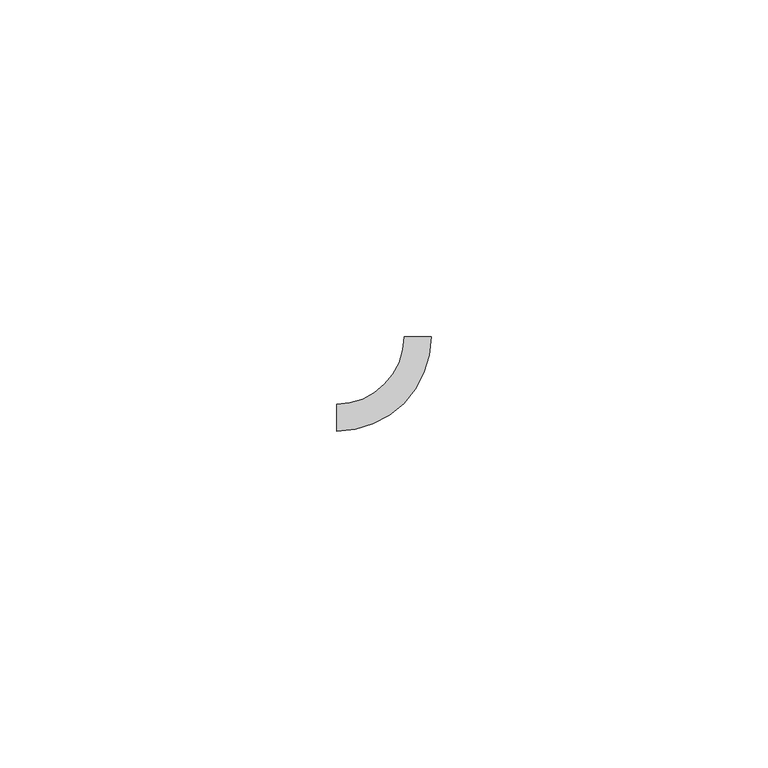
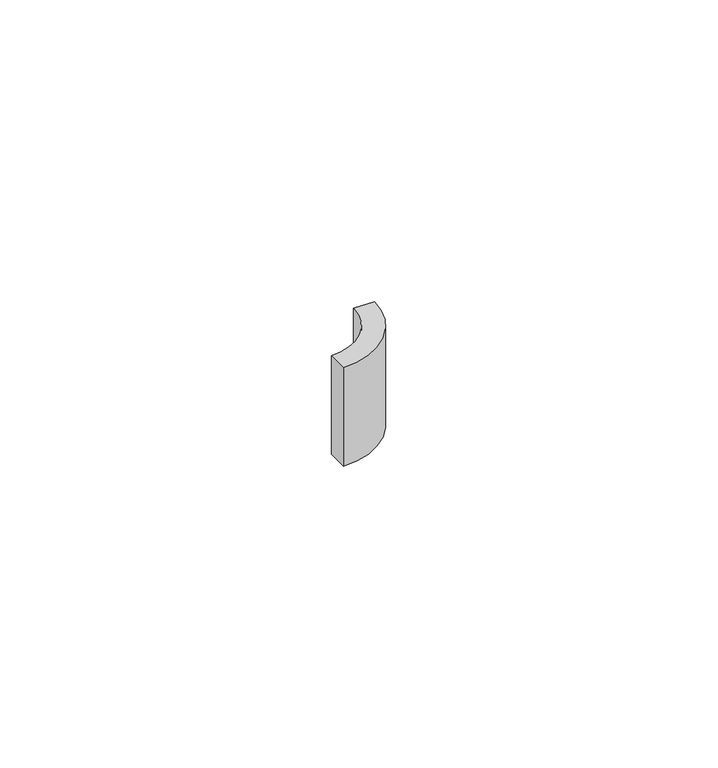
"""IFC4 building model written with IfcOpenShell, lengths in millimetres: duct fitting geometry, КНС_Поворот_Полоса_Неспецифицируемое_DKC : Изгиб полосы."""

from ifc_helpers import new_model, si_unit, point, frame, frame_2d, origin, place, context, project, spatial, polyline, circle_curve, trimmed, segment, composite_curve, outline, extrude, source, transform, mapped, element, save


def duct_fitting_4ba52f5c(model_context):
    return source(origin(), model_context, "Body", "SweptSolid", [
        extrude(outline(composite_curve([segment(trimmed(circle_curve(frame_2d((-12.0, 12.0)), 14.0), [point((2.0, 12.0))], [point((-12.0, -2.0))], False, "CARTESIAN"), True, "CONTINUOUS"), segment(polyline([(-12.0, -2.0), (-12.0, 2.0)]), True, "CONTINUOUS"), segment(trimmed(circle_curve(frame_2d((-12.0, 12.0)), 10.0), [point((-12.0, 2.0))], [point((-2.0, 12.0))], True, "CARTESIAN"), True, "CONTINUOUS"), segment(polyline([(-2.0, 12.0), (2.0, 12.0)]), True, "CONTINUOUS")], self_intersect=False)), frame((0.0, 0.0, -10.0), z_axis=(0.0, 0.0, 1.0), x_axis=(1.0, 0.0, 0.0)), (0.0, 0.0, 1.0), 20.0),
    ])


if __name__ == "__main__":
    model = new_model("IFC4")
    model_context = context("Model", 3, world=origin())
    ifc_project = project(units=[si_unit("LENGTHUNIT", "METRE", prefix="MILLI")], contexts=[model_context])
    site = spatial("IfcSite", under=ifc_project)
    building = spatial("IfcBuilding", under=site)
    placement = place(None, origin())
    duct_fitting_shape = duct_fitting_4ba52f5c(model_context)
    element("IfcDuctFitting", 1, ObjectType="КНС_Поворот_Полоса_Неспецифицируемое_DKC : Изгиб полосы", at=placement, inside=building, context=model_context, shape_type="MappedRepresentation", body=[
        mapped(duct_fitting_shape, transform((0.0, 0.0, 0.0), x_axis=(1.0, 0.0, 0.0), y_axis=(0.0, 1.0, 0.0), z_axis=(0.0, 0.0, 1.0))),
    ])
    save(model, "model.ifc")
